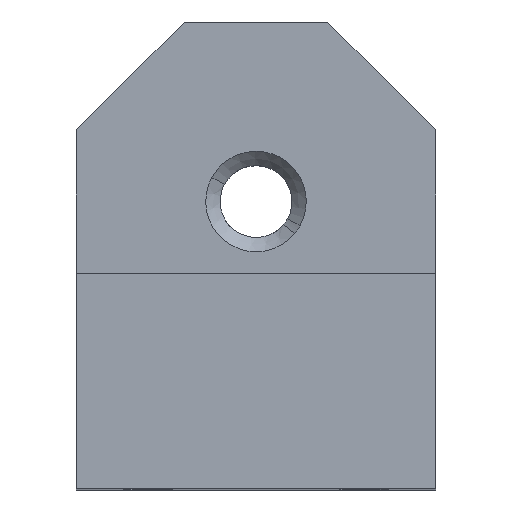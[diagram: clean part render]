
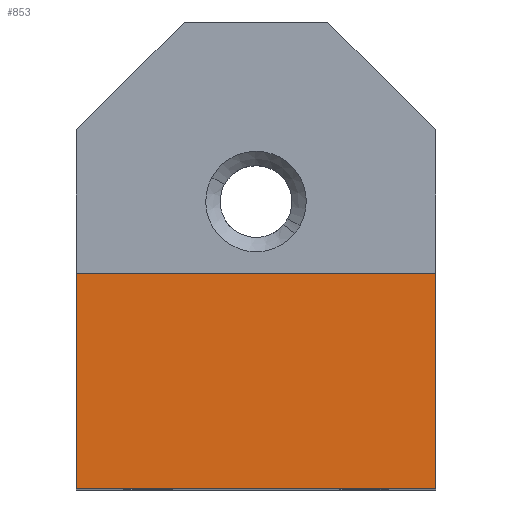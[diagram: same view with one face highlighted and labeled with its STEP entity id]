
A CAD part, top view. The second image highlights one B-rep face of the part: STEP entity #853.
In plain terms, the highlighted planar face has unit normal (0, 0, 1).
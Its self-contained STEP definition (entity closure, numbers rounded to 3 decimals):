
#301=CARTESIAN_POINT('Line Origine',(0.,-40.,3.)) ;
#305=CARTESIAN_POINT('Vertex',(-25.,-40.,3.)) ;
#307=CARTESIAN_POINT('Vertex',(25.,-40.,3.)) ;
#562=CARTESIAN_POINT('Line Origine',(-25.,-25.,3.)) ;
#566=CARTESIAN_POINT('Vertex',(-25.,-10.,3.)) ;
#635=CARTESIAN_POINT('Vertex',(25.,-10.,3.)) ;
#638=CARTESIAN_POINT('Line Origine',(25.,-25.,3.)) ;
#837=CARTESIAN_POINT('Axis2P3D Location',(0.,-10.,3.)) ;
#842=CARTESIAN_POINT('Line Origine',(0.,-10.,3.)) ;
#302=DIRECTION('Vector Direction',(1.,0.,0.)) ;
#563=DIRECTION('Vector Direction',(0.,-1.,0.)) ;
#639=DIRECTION('Vector Direction',(0.,-1.,0.)) ;
#838=DIRECTION('Axis2P3D Direction',(-0.,0.,1.)) ;
#839=DIRECTION('Axis2P3D XDirection',(0.,-1.,0.)) ;
#843=DIRECTION('Vector Direction',(1.,0.,0.)) ;
#840=AXIS2_PLACEMENT_3D('Plane Axis2P3D',#837,#838,#839) ;
#848=ORIENTED_EDGE('',*,*,#846,.F.) ;
#849=ORIENTED_EDGE('',*,*,#568,.T.) ;
#850=ORIENTED_EDGE('',*,*,#309,.T.) ;
#851=ORIENTED_EDGE('',*,*,#642,.F.) ;
#303=VECTOR('Line Direction',#302,1.) ;
#564=VECTOR('Line Direction',#563,1.) ;
#640=VECTOR('Line Direction',#639,1.) ;
#844=VECTOR('Line Direction',#843,1.) ;
#853=ADVANCED_FACE('\X2\96F64EF651E04F554F53\X0\',(#852),#841,.T.) ;
#309=EDGE_CURVE('',#306,#308,#304,.T.) ;
#568=EDGE_CURVE('',#567,#306,#565,.T.) ;
#642=EDGE_CURVE('',#636,#308,#641,.T.) ;
#846=EDGE_CURVE('',#567,#636,#845,.T.) ;
#847=EDGE_LOOP('',(#848,#849,#850,#851)) ;
#852=FACE_OUTER_BOUND('',#847,.T.) ;
#304=LINE('Line',#301,#303) ;
#565=LINE('Line',#562,#564) ;
#641=LINE('Line',#638,#640) ;
#845=LINE('Line',#842,#844) ;
#841=PLANE('',#840) ;
#306=VERTEX_POINT('',#305) ;
#308=VERTEX_POINT('',#307) ;
#567=VERTEX_POINT('',#566) ;
#636=VERTEX_POINT('',#635) ;
